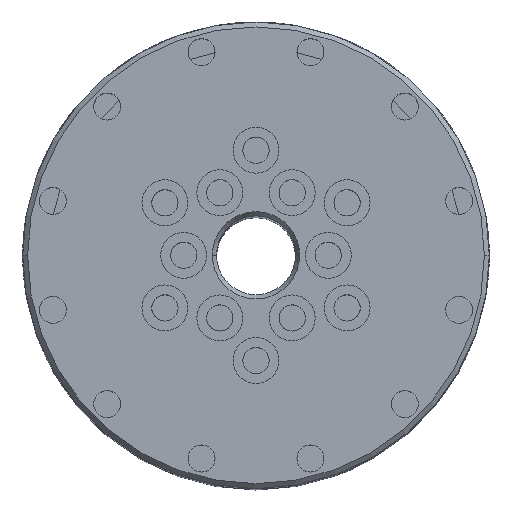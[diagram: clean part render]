
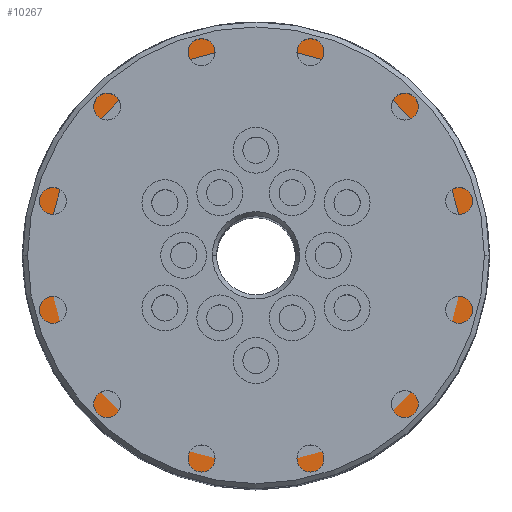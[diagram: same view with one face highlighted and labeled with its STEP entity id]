
A CAD part, top view. The second image highlights one B-rep face of the part: STEP entity #10267.
In plain terms, the highlighted planar face has unit normal (0, 0, 1).
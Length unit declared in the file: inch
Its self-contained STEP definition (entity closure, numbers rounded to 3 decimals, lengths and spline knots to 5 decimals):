
#117 = VERTEX_POINT ( 'NONE', #13478 ) ;
#204 = VERTEX_POINT ( 'NONE', #13565 ) ;
#207 = VERTEX_POINT ( 'NONE', #13568 ) ;
#224 = VERTEX_POINT ( 'NONE', #13585 ) ;
#2672 = CARTESIAN_POINT ( 'NONE',  ( 0., 0., -1.125 ) ) ;
#2673 = DIRECTION ( 'NONE',  ( 0., 0., 1. ) ) ;
#2674 = DIRECTION ( 'NONE',  ( 1., 0., 0. ) ) ;
#4451 = CARTESIAN_POINT ( 'NONE',  ( 0., 0., -1.125 ) ) ;
#4452 = DIRECTION ( 'NONE',  ( 0., 0., 1. ) ) ;
#4453 = DIRECTION ( 'NONE',  ( -1., 0., 0. ) ) ;
#4600 = CARTESIAN_POINT ( 'NONE',  ( 0., 0., -1.125 ) ) ;
#4601 = DIRECTION ( 'NONE',  ( 0., 0., 1. ) ) ;
#4602 = DIRECTION ( 'NONE',  ( -1., 0., 0. ) ) ;
#5559 = FACE_BOUND ( 'NONE', #15770, .T. ) ;
#5561 = FACE_OUTER_BOUND ( 'NONE', #15773, .T. ) ;
#5562 = PLANE ( 'NONE',  #9226 ) ;
#5573 = CARTESIAN_POINT ( 'NONE',  ( 0., 1.5935, -1.125 ) ) ;
#5574 = DIRECTION ( 'NONE',  ( 0., 0., -1. ) ) ;
#5575 = DIRECTION ( 'NONE',  ( -1., 0., 0. ) ) ;
#5974 = EDGE_CURVE ( 'NONE', #117, #204, #8980, .T. ) ;
#6195 = EDGE_CURVE ( 'NONE', #204, #117, #9567, .T. ) ;
#6373 = EDGE_CURVE ( 'NONE', #224, #207, #8661, .T. ) ;
#6385 = EDGE_CURVE ( 'NONE', #207, #224, #9227, .T. ) ;
#8661 = CIRCLE ( 'NONE', #9120, 2.1565 ) ;
#8779 = AXIS2_PLACEMENT_3D ( 'NONE', #4600, #4601, #4602 ) ;
#8980 = CIRCLE ( 'NONE', #9222, 1.97 ) ;
#9077 = AXIS2_PLACEMENT_3D ( 'NONE', #2672, #2673, #2674 ) ;
#9120 = AXIS2_PLACEMENT_3D ( 'NONE', #4451, #4452, #4453 ) ;
#9222 = AXIS2_PLACEMENT_3D ( 'NONE', #12765, #12766, #12767 ) ;
#9226 = AXIS2_PLACEMENT_3D ( 'NONE', #5573, #5574, #5575 ) ;
#9227 = CIRCLE ( 'NONE', #8779, 2.1565 ) ;
#9567 = CIRCLE ( 'NONE', #9077, 1.97 ) ;
#10267 = ADVANCED_FACE ( 'NONE', ( #5559, #5561 ), #5562, .F. ) ;
#12765 = CARTESIAN_POINT ( 'NONE',  ( 0., 0., -1.125 ) ) ;
#12766 = DIRECTION ( 'NONE',  ( 0., 0., 1. ) ) ;
#12767 = DIRECTION ( 'NONE',  ( 1., 0., 0. ) ) ;
#13478 = CARTESIAN_POINT ( 'NONE',  ( -1.97, 0., -1.125 ) ) ;
#13565 = CARTESIAN_POINT ( 'NONE',  ( 1.97, 0., -1.125 ) ) ;
#13568 = CARTESIAN_POINT ( 'NONE',  ( 2.1565, 0., -1.125 ) ) ;
#13585 = CARTESIAN_POINT ( 'NONE',  ( -2.1565, 0., -1.125 ) ) ;
#15770 = EDGE_LOOP ( 'NONE', ( #15928, #15929 ) ) ;
#15773 = EDGE_LOOP ( 'NONE', ( #15924, #15931 ) ) ;
#15924 = ORIENTED_EDGE ( 'NONE', *, *, #6373, .T. ) ;
#15928 = ORIENTED_EDGE ( 'NONE', *, *, #6195, .F. ) ;
#15929 = ORIENTED_EDGE ( 'NONE', *, *, #5974, .F. ) ;
#15931 = ORIENTED_EDGE ( 'NONE', *, *, #6385, .T. ) ;
